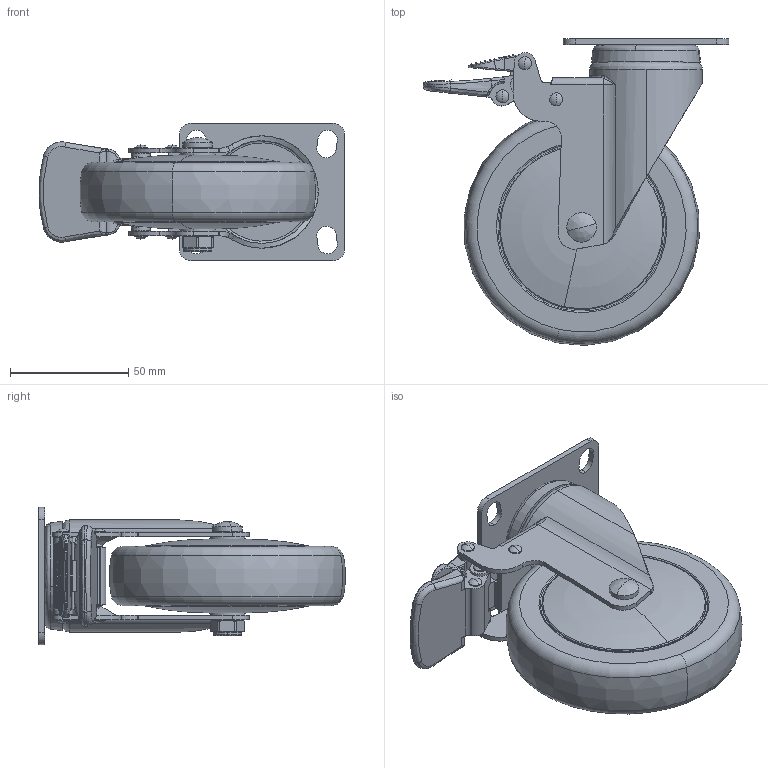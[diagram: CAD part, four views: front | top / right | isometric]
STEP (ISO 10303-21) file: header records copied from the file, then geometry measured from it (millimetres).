
FILE_DESCRIPTION (( 'STEP AP214' ), '1' );
FILE_NAME ('37224-374-67 Æ½¶¥É²³µ.STEP', '2019-12-13T23:59:05', ( 'Owner' ), ( 'Organization' ), 'SwSTEP 2.0', 'SolidWorks 2014', '' );
FILE_SCHEMA (( 'AUTOMOTIVE_DESIGN' ));
Length unit declared in the file: millimetre
Products named in the file (13): 价陬; 370-64呿价; 300-34; 360-01 侐源 ; 穩隊芛5.5; 穩隊; 374-12; 4渡价陬; 371-64呿价1; 374-907; 360-03上刚碗 （37系列使用模型）; 350-33a; 37224-374-67 す階价陬
Assembly tree (19 placements, depth 4):
  37224-374-67 す階价陬
    4渡价陬
      374-12
      360-03上刚碗 （37系列使用模型）
      370-64呿价
      371-64呿价1
      穩隊
        穩隊芛5.5  x8
      价陬
        300-34
        350-33a
    360-01 侐源 
    374-907
Bounding box: 129.17 x 129.68 x 58 mm (x, y, z)
Volume: 257333.7 mm3; surface area: 67635.9 mm2
Topology: 16 solids, 16 shells, 669 faces, 1706 edges, 1086 vertices
Faces by surface type: plane 249, cylinder 191, bspline 156, cone 33, torus 24, sphere 16
Entity records: 104891 total; most frequent: CARTESIAN_POINT 90120, ORIENTED_EDGE 3268, DIRECTION 2540, EDGE_CURVE 1634, VERTEX_POINT 1037, AXIS2_PLACEMENT_3D 899, LINE 742, VECTOR 742
